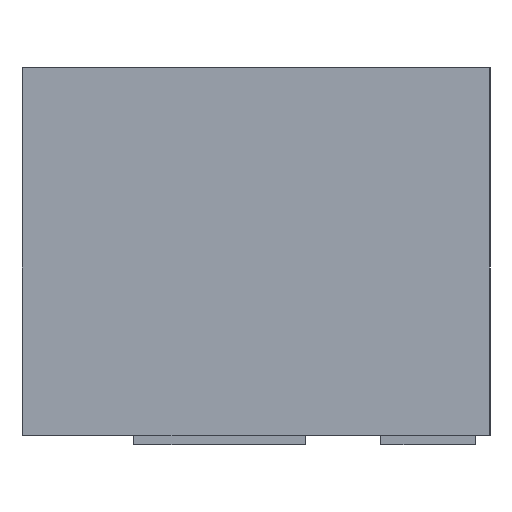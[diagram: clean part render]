
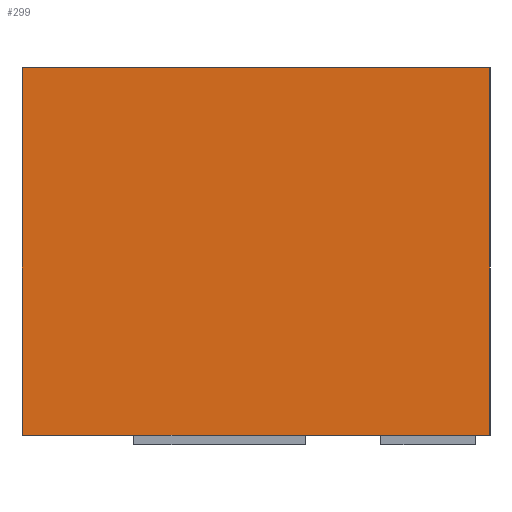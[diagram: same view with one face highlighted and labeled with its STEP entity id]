
A CAD part, left-side view. The second image highlights one B-rep face of the part: STEP entity #299.
In plain terms, the highlighted planar face has unit normal (-1, 0, 0).
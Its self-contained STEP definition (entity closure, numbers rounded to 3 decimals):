
#36 = EDGE_CURVE('',#37,#39,#41,.T.);
#37 = VERTEX_POINT('',#38);
#38 = CARTESIAN_POINT('',(-4.75,2.588,0.));
#39 = VERTEX_POINT('',#40);
#40 = CARTESIAN_POINT('',(-4.75,2.588,4.05));
#41 = SURFACE_CURVE('',#42,(#46,#58),.PCURVE_S1.);
#42 = LINE('',#43,#44);
#43 = CARTESIAN_POINT('',(-4.75,2.588,0.));
#44 = VECTOR('',#45,1.);
#45 = DIRECTION('',(0.,0.,1.));
#46 = PCURVE('',#47,#52);
#47 = PLANE('',#48);
#48 = AXIS2_PLACEMENT_3D('',#49,#50,#51);
#49 = CARTESIAN_POINT('',(-4.75,2.588,0.));
#50 = DIRECTION('',(0.,1.,0.));
#51 = DIRECTION('',(1.,0.,0.));
#52 = DEFINITIONAL_REPRESENTATION('',(#53),#57);
#53 = LINE('',#54,#55);
#54 = CARTESIAN_POINT('',(0.,0.));
#55 = VECTOR('',#56,1.);
#56 = DIRECTION('',(0.,-1.));
#57 = ( GEOMETRIC_REPRESENTATION_CONTEXT(2) 
PARAMETRIC_REPRESENTATION_CONTEXT() REPRESENTATION_CONTEXT('2D SPACE',''
  ) );
#58 = PCURVE('',#59,#64);
#59 = PLANE('',#60);
#60 = AXIS2_PLACEMENT_3D('',#61,#62,#63);
#61 = CARTESIAN_POINT('',(-4.75,-2.563,0.));
#62 = DIRECTION('',(-1.,0.,0.));
#63 = DIRECTION('',(0.,1.,0.));
#64 = DEFINITIONAL_REPRESENTATION('',(#65),#69);
#65 = LINE('',#66,#67);
#66 = CARTESIAN_POINT('',(5.151,0.));
#67 = VECTOR('',#68,1.);
#68 = DIRECTION('',(0.,-1.));
#69 = ( GEOMETRIC_REPRESENTATION_CONTEXT(2) 
PARAMETRIC_REPRESENTATION_CONTEXT() REPRESENTATION_CONTEXT('2D SPACE',''
  ) );
#87 = PLANE('',#88);
#88 = AXIS2_PLACEMENT_3D('',#89,#90,#91);
#89 = CARTESIAN_POINT('',(0.,0.013,4.05));
#90 = DIRECTION('',(0.,0.,-1.));
#91 = DIRECTION('',(0.,-1.,0.));
#141 = PLANE('',#142);
#142 = AXIS2_PLACEMENT_3D('',#143,#144,#145);
#143 = CARTESIAN_POINT('',(0.,0.013,0.));
#144 = DIRECTION('',(0.,0.,-1.));
#145 = DIRECTION('',(0.,-1.,0.));
#196 = PLANE('',#197);
#197 = AXIS2_PLACEMENT_3D('',#198,#199,#200);
#198 = CARTESIAN_POINT('',(4.75,-2.563,0.));
#199 = DIRECTION('',(0.,-1.,0.));
#200 = DIRECTION('',(-1.,0.,0.));
#234 = VERTEX_POINT('',#235);
#235 = CARTESIAN_POINT('',(-4.75,-2.563,4.05));
#256 = EDGE_CURVE('',#257,#234,#259,.T.);
#257 = VERTEX_POINT('',#258);
#258 = CARTESIAN_POINT('',(-4.75,-2.563,0.));
#259 = SURFACE_CURVE('',#260,(#264,#271),.PCURVE_S1.);
#260 = LINE('',#261,#262);
#261 = CARTESIAN_POINT('',(-4.75,-2.563,0.));
#262 = VECTOR('',#263,1.);
#263 = DIRECTION('',(0.,0.,1.));
#264 = PCURVE('',#196,#265);
#265 = DEFINITIONAL_REPRESENTATION('',(#266),#270);
#266 = LINE('',#267,#268);
#267 = CARTESIAN_POINT('',(9.5,0.));
#268 = VECTOR('',#269,1.);
#269 = DIRECTION('',(0.,-1.));
#270 = ( GEOMETRIC_REPRESENTATION_CONTEXT(2) 
PARAMETRIC_REPRESENTATION_CONTEXT() REPRESENTATION_CONTEXT('2D SPACE',''
  ) );
#271 = PCURVE('',#59,#272);
#272 = DEFINITIONAL_REPRESENTATION('',(#273),#277);
#273 = LINE('',#274,#275);
#274 = CARTESIAN_POINT('',(0.,0.));
#275 = VECTOR('',#276,1.);
#276 = DIRECTION('',(0.,-1.));
#277 = ( GEOMETRIC_REPRESENTATION_CONTEXT(2) 
PARAMETRIC_REPRESENTATION_CONTEXT() REPRESENTATION_CONTEXT('2D SPACE',''
  ) );
#299 = ADVANCED_FACE('',(#300),#59,.T.);
#300 = FACE_BOUND('',#301,.T.);
#301 = EDGE_LOOP('',(#302,#303,#324,#325));
#302 = ORIENTED_EDGE('',*,*,#256,.T.);
#303 = ORIENTED_EDGE('',*,*,#304,.T.);
#304 = EDGE_CURVE('',#234,#39,#305,.T.);
#305 = SURFACE_CURVE('',#306,(#310,#317),.PCURVE_S1.);
#306 = LINE('',#307,#308);
#307 = CARTESIAN_POINT('',(-4.75,-2.563,4.05));
#308 = VECTOR('',#309,1.);
#309 = DIRECTION('',(0.,1.,0.));
#310 = PCURVE('',#59,#311);
#311 = DEFINITIONAL_REPRESENTATION('',(#312),#316);
#312 = LINE('',#313,#314);
#313 = CARTESIAN_POINT('',(0.,-4.05));
#314 = VECTOR('',#315,1.);
#315 = DIRECTION('',(1.,0.));
#316 = ( GEOMETRIC_REPRESENTATION_CONTEXT(2) 
PARAMETRIC_REPRESENTATION_CONTEXT() REPRESENTATION_CONTEXT('2D SPACE',''
  ) );
#317 = PCURVE('',#87,#318);
#318 = DEFINITIONAL_REPRESENTATION('',(#319),#323);
#319 = LINE('',#320,#321);
#320 = CARTESIAN_POINT('',(2.576,4.75));
#321 = VECTOR('',#322,1.);
#322 = DIRECTION('',(-1.,0.));
#323 = ( GEOMETRIC_REPRESENTATION_CONTEXT(2) 
PARAMETRIC_REPRESENTATION_CONTEXT() REPRESENTATION_CONTEXT('2D SPACE',''
  ) );
#324 = ORIENTED_EDGE('',*,*,#36,.F.);
#325 = ORIENTED_EDGE('',*,*,#326,.F.);
#326 = EDGE_CURVE('',#257,#37,#327,.T.);
#327 = SURFACE_CURVE('',#328,(#332,#339),.PCURVE_S1.);
#328 = LINE('',#329,#330);
#329 = CARTESIAN_POINT('',(-4.75,-2.563,0.));
#330 = VECTOR('',#331,1.);
#331 = DIRECTION('',(0.,1.,0.));
#332 = PCURVE('',#59,#333);
#333 = DEFINITIONAL_REPRESENTATION('',(#334),#338);
#334 = LINE('',#335,#336);
#335 = CARTESIAN_POINT('',(0.,0.));
#336 = VECTOR('',#337,1.);
#337 = DIRECTION('',(1.,0.));
#338 = ( GEOMETRIC_REPRESENTATION_CONTEXT(2) 
PARAMETRIC_REPRESENTATION_CONTEXT() REPRESENTATION_CONTEXT('2D SPACE',''
  ) );
#339 = PCURVE('',#141,#340);
#340 = DEFINITIONAL_REPRESENTATION('',(#341),#345);
#341 = LINE('',#342,#343);
#342 = CARTESIAN_POINT('',(2.576,4.75));
#343 = VECTOR('',#344,1.);
#344 = DIRECTION('',(-1.,0.));
#345 = ( GEOMETRIC_REPRESENTATION_CONTEXT(2) 
PARAMETRIC_REPRESENTATION_CONTEXT() REPRESENTATION_CONTEXT('2D SPACE',''
  ) );
